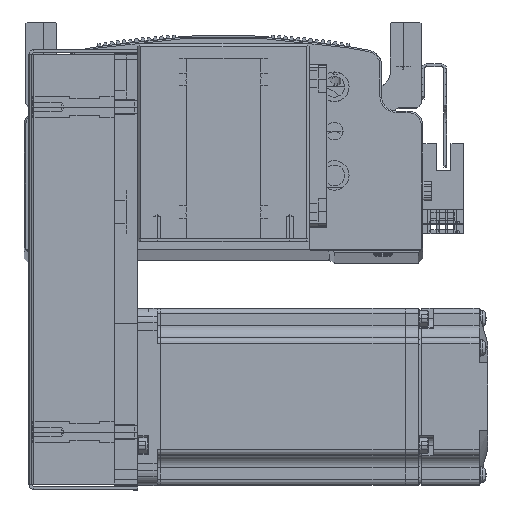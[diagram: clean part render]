
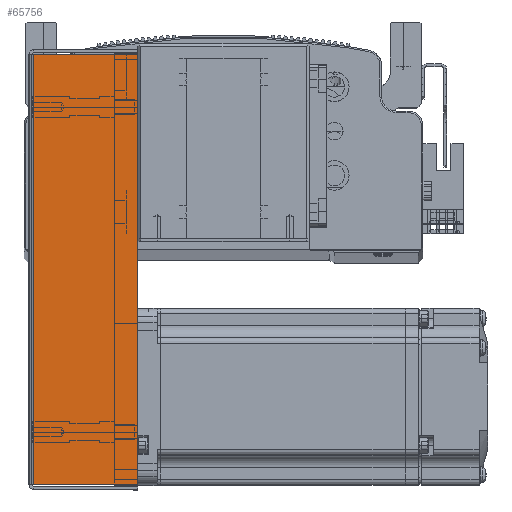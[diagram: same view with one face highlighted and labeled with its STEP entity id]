
A CAD part, top view. The second image highlights one B-rep face of the part: STEP entity #65756.
In plain terms, the highlighted planar face has unit normal (0, 0, 1) as drawn and (0, 0, -1) by its records, which use the part's own axes.
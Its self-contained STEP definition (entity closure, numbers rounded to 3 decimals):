
#3434 = LINE ( 'NONE', #88175, #3482 ) ;
#3436 = VECTOR ( 'NONE', #88173, 1000. ) ;
#3462 = VECTOR ( 'NONE', #88195, 1000. ) ;
#3482 = VECTOR ( 'NONE', #88230, 1000. ) ;
#3484 = LINE ( 'NONE', #88193, #3462 ) ;
#3485 = LINE ( 'NONE', #88171, #3436 ) ;
#28122 = CARTESIAN_POINT ( 'NONE',  ( 72.793, 0.737, -34.5 ) ) ;
#28138 = CARTESIAN_POINT ( 'NONE',  ( -72.793, 0.737, -34.5 ) ) ;
#28197 = CARTESIAN_POINT ( 'NONE',  ( 72.793, 36., -34.5 ) ) ;
#28242 = CARTESIAN_POINT ( 'NONE',  ( -72.793, 36., -34.5 ) ) ;
#32104 = CARTESIAN_POINT ( 'NONE',  ( 74.5, 0.737, -34.5 ) ) ;
#32116 = DIRECTION ( 'NONE',  ( 1., 0., 0. ) ) ;
#33958 = CARTESIAN_POINT ( 'NONE',  ( 0., 0., -34.5 ) ) ;
#33966 = DIRECTION ( 'NONE',  ( 0., 0., 1. ) ) ;
#33970 = DIRECTION ( 'NONE',  ( 0., -1., 0. ) ) ;
#33982 = PLANE ( 'NONE',  #47269 ) ;
#37569 = EDGE_LOOP ( 'NONE', ( #48968, #49084, #48974, #48920 ) ) ;
#40958 = FACE_OUTER_BOUND ( 'NONE', #37569, .T. ) ;
#43761 = EDGE_CURVE ( 'NONE', #60026, #60042, #58193, .T. ) ;
#47269 = AXIS2_PLACEMENT_3D ( 'NONE', #33958, #33966, #33970 ) ;
#48920 = ORIENTED_EDGE ( 'NONE', *, *, #72195, .F. ) ;
#48968 = ORIENTED_EDGE ( 'NONE', *, *, #43761, .F. ) ;
#48974 = ORIENTED_EDGE ( 'NONE', *, *, #72201, .T. ) ;
#49084 = ORIENTED_EDGE ( 'NONE', *, *, #72194, .T. ) ;
#58193 = LINE ( 'NONE', #32104, #58220 ) ;
#58220 = VECTOR ( 'NONE', #32116, 1000. ) ;
#60026 = VERTEX_POINT ( 'NONE', #28138 ) ;
#60042 = VERTEX_POINT ( 'NONE', #28122 ) ;
#60059 = VERTEX_POINT ( 'NONE', #28242 ) ;
#60068 = VERTEX_POINT ( 'NONE', #28197 ) ;
#65756 = ADVANCED_FACE ( 'NONE', ( #40958 ), #33982, .F. ) ;
#72194 = EDGE_CURVE ( 'NONE', #60026, #60059, #3484, .T. ) ;
#72195 = EDGE_CURVE ( 'NONE', #60042, #60068, #3485, .T. ) ;
#72201 = EDGE_CURVE ( 'NONE', #60059, #60068, #3434, .T. ) ;
#88171 = CARTESIAN_POINT ( 'NONE',  ( 72.793, 0., -34.5 ) ) ;
#88173 = DIRECTION ( 'NONE',  ( 0., 1., 0. ) ) ;
#88175 = CARTESIAN_POINT ( 'NONE',  ( 0., 36., -34.5 ) ) ;
#88193 = CARTESIAN_POINT ( 'NONE',  ( -72.793, 0., -34.5 ) ) ;
#88195 = DIRECTION ( 'NONE',  ( 0., 1., 0. ) ) ;
#88230 = DIRECTION ( 'NONE',  ( 1., 0., 0. ) ) ;
